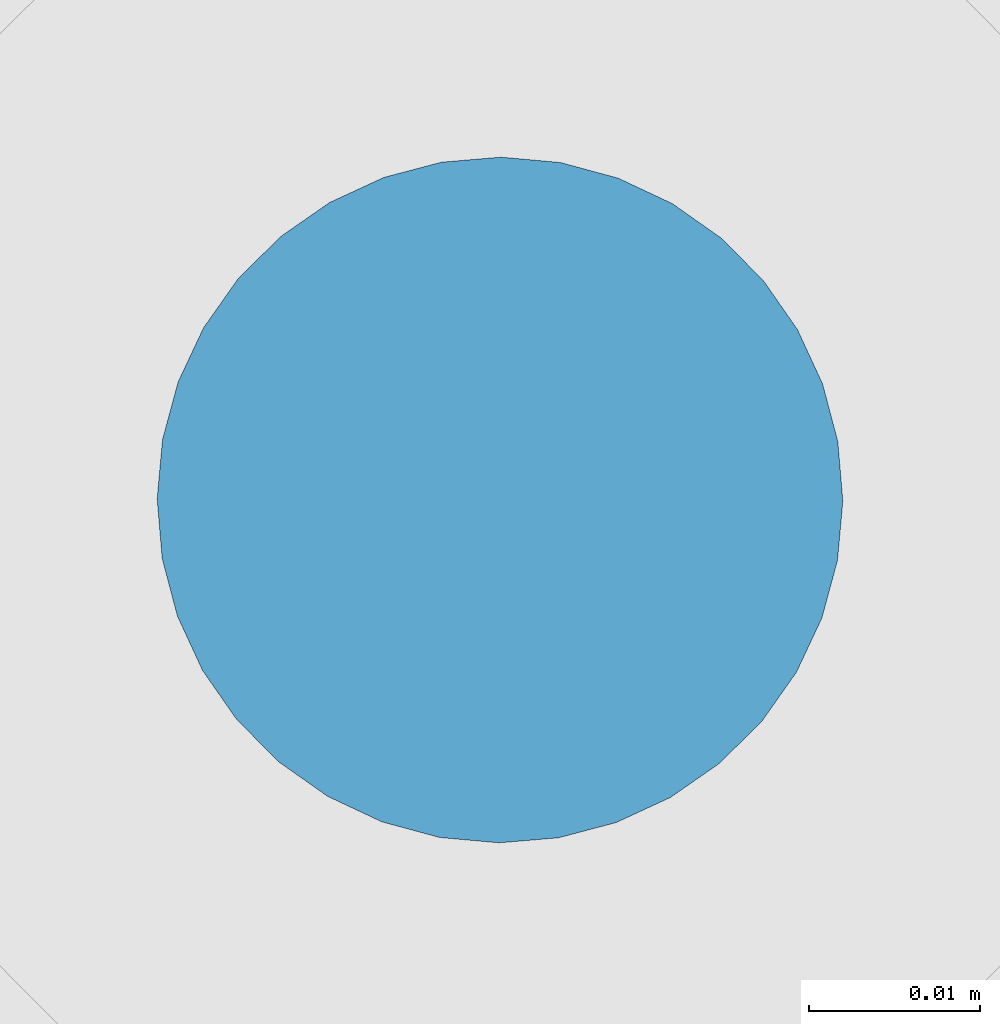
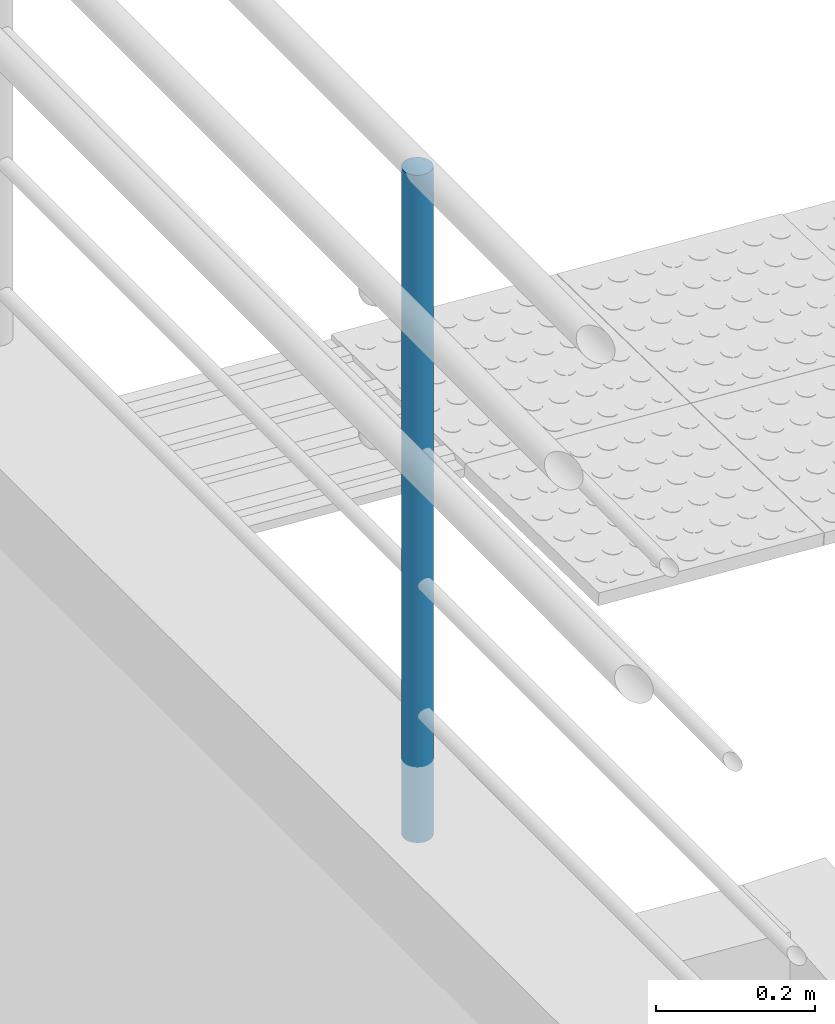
# One storey, part 55 of 237: 1 building element part, 1 element without a shape of its own.
"""IFC2X3 building model written with IfcOpenShell, lengths in millimetres."""

from ifc_helpers import new_model, entity, si_unit, converted_unit, derived_unit, money_unit, direction, frame, origin_with_axes, place, context, subcontext, project, spatial, faceted_brep, material, type_object, element, aggregate, save


model = new_model("IFC2X3")

# Units and contexts
model_context = context("Model", 3, precision=0.01, world=origin_with_axes(), true_north=direction((0.0, 1.0)))
body_context = subcontext(model_context, "Body", "Model", "MODEL_VIEW")
ifc_project = project(units=[si_unit("LENGTHUNIT", "METRE", prefix="MILLI"), si_unit("AREAUNIT", "SQUARE_METRE"), si_unit("VOLUMEUNIT", "CUBIC_METRE"), converted_unit("PLANEANGLEUNIT", "DEGREE", entity("IfcPlaneAngleMeasure", 0.0174532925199), si_unit("PLANEANGLEUNIT", "RADIAN"), dimensions=[0, 0, 0, 0, 0, 0, 0]), money_unit("USD"), converted_unit("TIMEUNIT", "Year", entity("IfcTimeMeasure", 31556926.0), si_unit("TIMEUNIT", "SECOND"), dimensions=[0, 0, 1, 0, 0, 0, 0]), si_unit("MASSUNIT", "GRAM", prefix="KILO"), si_unit("THERMODYNAMICTEMPERATUREUNIT", "DEGREE_CELSIUS"), si_unit("LUMINOUSINTENSITYUNIT", "LUMEN"), si_unit("ENERGYUNIT", "JOULE", prefix="MEGA"), derived_unit("THERMALCONDUCTANCEUNIT", [(si_unit("POWERUNIT", "WATT"), 1), (si_unit("LENGTHUNIT", "METRE"), -1), (si_unit("THERMODYNAMICTEMPERATUREUNIT", "KELVIN"), -1)]), derived_unit("SPECIFICHEATCAPACITYUNIT", [(si_unit("ENERGYUNIT", "JOULE"), 1), (si_unit("MASSUNIT", "GRAM", prefix="KILO"), -1), (si_unit("THERMODYNAMICTEMPERATUREUNIT", "KELVIN"), -1)]), derived_unit("MASSDENSITYUNIT", [(si_unit("MASSUNIT", "GRAM", prefix="KILO"), 1), (si_unit("VOLUMEUNIT", "CUBIC_METRE"), -1)])], contexts=[model_context])

# Site, building, storey
site_placement = place(None, origin_with_axes())
site = spatial("IfcSite", under=ifc_project, at=site_placement, Name="Local", CompositionType="ELEMENT")
building_placement = place(site_placement, origin_with_axes())
building = spatial("IfcBuilding", under=site, at=building_placement, Name="Construção", CompositionType="ELEMENT")
storey_placement = place(building_placement, origin_with_axes())
storey = spatial("IfcBuildingStorey", under=building, at=storey_placement, Name="Pavimento Térreo", CompositionType="ELEMENT", Elevation=0.0)

# Railing, building element part
railing_type = type_object("IfcRailingType", Name="Tipo de Guarda-Corpo", PredefinedType="NOTDEFINED")
railing_placement = place(storey_placement, frame((70326.6870103, 28675.2458388, -1357.10819655), z_axis=(0.0, 0.0, 1.0), x_axis=(1.0, 0.0, 0.0)))
railing = element("IfcRailing", 1, at=railing_placement, inside=storey, type_object=railing_type, Name="Guarda-Corpo - 004", PredefinedType="NOTDEFINED")
ifc_material = material(Name="Aço - Inoxidável")
building_element_part_placement = place(railing_placement, origin_with_axes())
building_element_part = element("IfcBuildingElementPart", 2, at=building_element_part_placement, material=ifc_material, Name="Aço - Inoxidável", context=body_context, shape_type="Brep", body=[
    faceted_brep([(-4705.37564874, 5585.38482375, 5.0), (-4705.06140644, 5588.85686196, 5.0), (-4705.06140644, 5588.85686196, 1030.0), (-4705.37564874, 5585.38482375, 1030.0), (-4705.35485128, 5592.33071972, 5.0), (-4706.28803011, 5582.0201012, 5.0), (-4707.7708283, 5578.86492971, 5.0), (-4709.77898923, 5576.01517757, 5.0), (-4712.25149595, 5573.55743305, 5.0), (-4715.11322259, 5571.56637348, 5.0), (-4718.27721704, 5570.1024962, 5.0), (-4721.64734293, 5569.21028037, 5.0), (-4725.12120069, 5568.91683552, 5.0), (-4728.5932389, 5569.23107783, 5.0), (-4731.95796145, 5570.1434592, 5.0), (-4735.11313294, 5571.62625738, 5.0), (-4737.96288508, 5573.63441831, 5.0), (-4740.4206296, 5576.10692503, 5.0), (-4742.41168917, 5578.96865167, 5.0), (-4743.87556645, 5582.13264612, 5.0), (-4744.76778228, 5585.50277201, 5.0), (-4745.06122713, 5588.97662977, 5.0), (-4744.74698482, 5592.44866798, 5.0), (-4743.83460345, 5595.81339053, 5.0), (-4742.35180527, 5598.96856202, 5.0), (-4740.34364434, 5601.81831416, 5.0), (-4737.87113762, 5604.27605868, 5.0), (-4735.00941098, 5606.26711825, 5.0), (-4731.84541652, 5607.73099554, 5.0), (-4728.47529064, 5608.62321137, 5.0), (-4725.00143288, 5608.91665621, 5.0), (-4721.52939467, 5608.60241391, 5.0), (-4718.16467212, 5607.69003254, 5.0), (-4715.00950063, 5606.20723435, 5.0), (-4712.15974849, 5604.19907342, 5.0), (-4709.70200397, 5601.7265667, 5.0), (-4707.7109444, 5598.86484006, 5.0), (-4706.24706711, 5595.70084561, 5.0), (-4705.35485128, 5592.33071972, 1030.0), (-4728.5932389, 5569.23107783, 1030.0), (-4725.12120069, 5568.91683552, 1030.0), (-4721.64734293, 5569.21028037, 1030.0), (-4718.27721704, 5570.1024962, 1030.0), (-4715.11322259, 5571.56637348, 1030.0), (-4712.25149595, 5573.55743305, 1030.0), (-4709.77898923, 5576.01517757, 1030.0), (-4707.7708283, 5578.86492971, 1030.0), (-4706.28803011, 5582.0201012, 1030.0), (-4706.24706711, 5595.70084561, 1030.0), (-4707.7109444, 5598.86484006, 1030.0), (-4709.70200397, 5601.7265667, 1030.0), (-4712.15974849, 5604.19907342, 1030.0), (-4715.00950063, 5606.20723435, 1030.0), (-4718.16467212, 5607.69003254, 1030.0), (-4721.52939467, 5608.60241391, 1030.0), (-4725.00143288, 5608.91665621, 1030.0), (-4728.47529064, 5608.62321137, 1030.0), (-4731.84541652, 5607.73099554, 1030.0), (-4735.00941098, 5606.26711825, 1030.0), (-4737.87113762, 5604.27605868, 1030.0), (-4740.34364434, 5601.81831416, 1030.0), (-4742.35180527, 5598.96856202, 1030.0), (-4743.83460345, 5595.81339053, 1030.0), (-4744.74698482, 5592.44866798, 1030.0), (-4745.06122713, 5588.97662977, 1030.0), (-4744.76778228, 5585.50277201, 1030.0), (-4743.87556645, 5582.13264612, 1030.0), (-4742.41168917, 5578.96865167, 1030.0), (-4740.4206296, 5576.10692503, 1030.0), (-4737.96288508, 5573.63441831, 1030.0), (-4735.11313294, 5571.62625738, 1030.0), (-4731.95796145, 5570.1434592, 1030.0)], [[[0, 1, 2, 3]], [[4, 1, 0, 5, 6, 7, 8, 9, 10, 11, 12, 13, 14, 15, 16, 17, 18, 19, 20, 21, 22, 23, 24, 25, 26, 27, 28, 29, 30, 31, 32, 33, 34, 35, 36, 37]], [[1, 4, 38, 2]], [[39, 40, 41, 42, 43, 44, 45, 46, 47, 3, 2, 38, 48, 49, 50, 51, 52, 53, 54, 55, 56, 57, 58, 59, 60, 61, 62, 63, 64, 65, 66, 67, 68, 69, 70, 71]], [[5, 0, 3, 47]], [[6, 5, 47, 46]], [[7, 6, 46, 45]], [[8, 7, 45, 44]], [[9, 8, 44, 43]], [[10, 9, 43, 42]], [[11, 10, 42, 41]], [[12, 11, 41, 40]], [[13, 12, 40, 39]], [[14, 13, 39, 71]], [[15, 14, 71, 70]], [[16, 15, 70, 69]], [[17, 16, 69, 68]], [[18, 17, 68, 67]], [[19, 18, 67, 66]], [[20, 19, 66, 65]], [[21, 20, 65, 64]], [[22, 21, 64, 63]], [[23, 22, 63, 62]], [[24, 23, 62, 61]], [[25, 24, 61, 60]], [[26, 25, 60, 59]], [[27, 26, 59, 58]], [[28, 27, 58, 57]], [[29, 28, 57, 56]], [[30, 29, 56, 55]], [[31, 30, 55, 54]], [[32, 31, 54, 53]], [[33, 32, 53, 52]], [[34, 33, 52, 51]], [[35, 34, 51, 50]], [[36, 35, 50, 49]], [[37, 36, 49, 48]], [[4, 37, 48, 38]]]),
])
aggregate(railing, [building_element_part])

save(model, "model.ifc")
